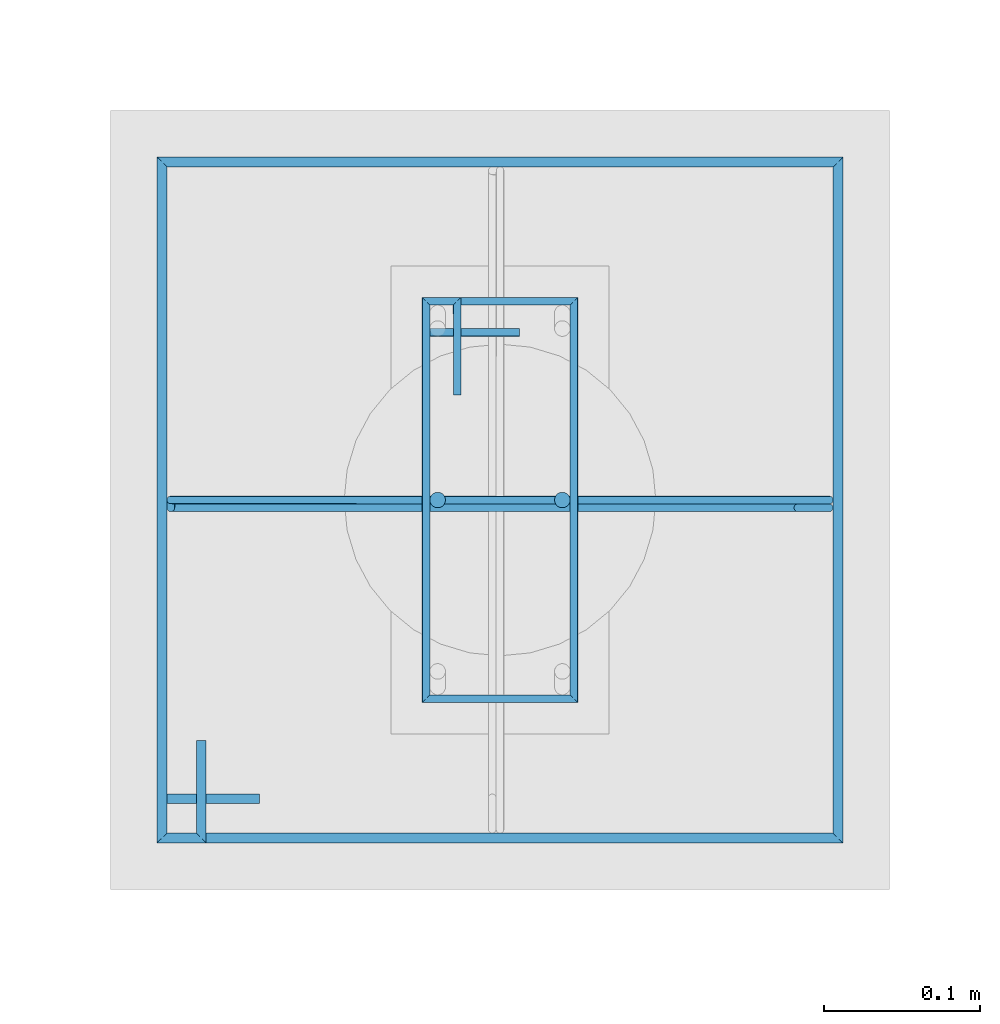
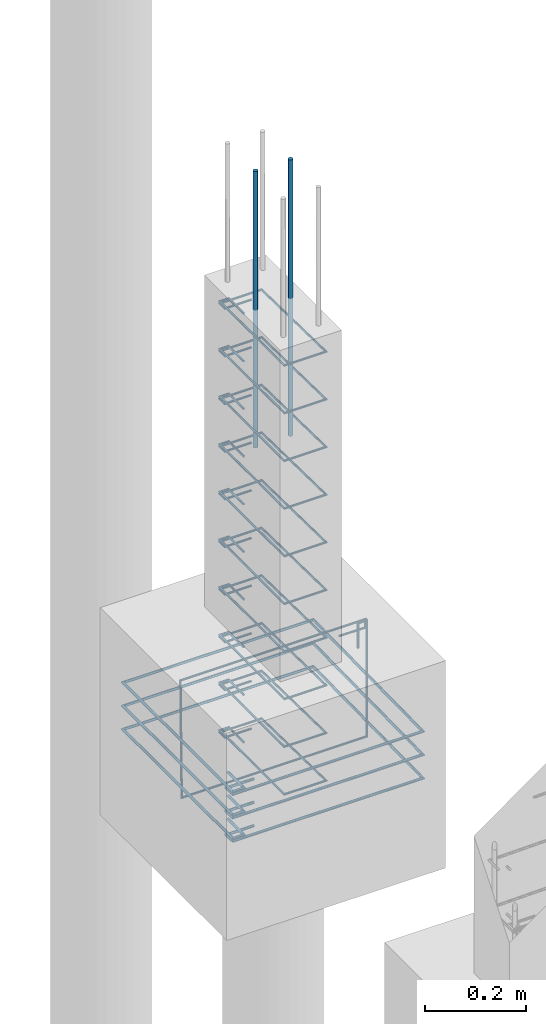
# One storey, part 76 of 119: 16 reinforcing bars.
"""IFC4 building model written with IfcOpenShell, lengths in centimetres."""

from ifc_helpers import new_model, entity, si_unit, derived_unit, frame, origin_with_axes, place, context, project, spatial, source, transform, mapped, element, save


model = new_model("IFC4")

# Units and contexts
model_context = context("Model", 3, precision=1e-05, world=origin_with_axes(), identifier="Body")
ifc_project = project(units=[si_unit("LENGTHUNIT", "METRE", prefix="CENTI"), si_unit("VOLUMEUNIT", "CUBIC_METRE"), si_unit("AREAUNIT", "SQUARE_METRE"), si_unit("POWERUNIT", "WATT"), si_unit("LUMINOUSFLUXUNIT", "LUMEN"), si_unit("ELECTRICCURRENTUNIT", "AMPERE"), si_unit("PRESSUREUNIT", "PASCAL", prefix="KILO"), si_unit("MASSUNIT", "GRAM", prefix="KILO"), si_unit("PLANEANGLEUNIT", "RADIAN"), derived_unit("VOLUMETRICFLOWRATEUNIT", [(si_unit("LENGTHUNIT", "METRE"), 3), (si_unit("TIMEUNIT", "SECOND"), -1)])], contexts=[model_context])

# Site, building, storey
site_placement = place(None, frame((-4000.0, 0.0, 0.0), z_axis=(0.0, 0.0, 1.0), x_axis=(1.0, 0.0, 0.0)))
site = spatial("IfcSite", under=ifc_project, at=site_placement, Name="PADRÃO")
building_placement = place(site_placement, frame((0.0, 0.0, -14.0)))
building = spatial("IfcBuilding", under=site, at=building_placement, Name="CRECHE PRÉ-ESCOLA TIPO 2")
storey_placement = place(building_placement, origin_with_axes())
storey = spatial("IfcBuildingStorey", under=building, at=storey_placement, Name="FUNDAÇÃO", CompositionType="ELEMENT", Elevation=-14.0)

# Reinforcing bars
shared_shape_1 = source(origin_with_axes(), model_context, "Body", "AdvancedSweptSolid", [
    entity("IfcSweptDiskSolid", entity("IfcCompositeCurve", [entity("IfcCompositeCurveSegment", "CONTINUOUS", True, entity("IfcPolyline", [entity("IfcCartesianPoint", [4.25, 21.75, 0.0]), entity("IfcCartesianPoint", [4.25, 27.75, 0.0])])), entity("IfcCompositeCurveSegment", "CONTINUOUS", True, entity("IfcPolyline", [entity("IfcCartesianPoint", [4.25, 27.75, 0.0]), entity("IfcCartesianPoint", [2.25, 27.75, 0.0])])), entity("IfcCompositeCurveSegment", "CONTINUOUS", True, entity("IfcPolyline", [entity("IfcCartesianPoint", [2.25, 27.75, 0.0]), entity("IfcCartesianPoint", [2.25, 2.25, 0.0])])), entity("IfcCompositeCurveSegment", "CONTINUOUS", True, entity("IfcPolyline", [entity("IfcCartesianPoint", [2.25, 2.25, 0.0]), entity("IfcCartesianPoint", [11.75, 2.25, 0.0])])), entity("IfcCompositeCurveSegment", "CONTINUOUS", True, entity("IfcPolyline", [entity("IfcCartesianPoint", [11.75, 2.25, 0.0]), entity("IfcCartesianPoint", [11.75, 27.75, -0.5])])), entity("IfcCompositeCurveSegment", "CONTINUOUS", True, entity("IfcPolyline", [entity("IfcCartesianPoint", [11.75, 27.75, -0.5]), entity("IfcCartesianPoint", [2.25, 27.75, -0.5])])), entity("IfcCompositeCurveSegment", "CONTINUOUS", True, entity("IfcPolyline", [entity("IfcCartesianPoint", [2.25, 27.75, -0.5]), entity("IfcCartesianPoint", [2.25, 25.75, -0.5])])), entity("IfcCompositeCurveSegment", "CONTINUOUS", True, entity("IfcPolyline", [entity("IfcCartesianPoint", [2.25, 25.75, -0.5]), entity("IfcCartesianPoint", [8.25, 25.75, -0.5])]))], False), 0.25),
])
for number, where, z_axis, x_axis, name in (
    (1, (1111.72, 1415.5, -74.75), (0.0, 0.0, 1.0), (1.0, 0.0, 0.0), "P102 - Estribo"),
    (2, (1111.72, 1415.5, -86.25), (0.0, 0.0, 1.0), (1.0, 0.0, 0.0), "P102 - Estribo"),
    (3, (1111.72, 1415.5, -5.75), (0.0, 0.0, 1.0), (1.0, 0.0, 0.0), "P102 - Estribo"),
    (4, (1111.72, 1415.5, -97.75), (0.0, 0.0, 1.0), (1.0, 0.0, 0.0), "P102 - Estribo"),
    (5, (1111.72, 1415.5, -28.75), (0.0, 0.0, 1.0), (1.0, 0.0, 0.0), "P102 - Estribo"),
    (6, (1111.72, 1415.5, -40.25), (0.0, 0.0, 1.0), (1.0, 0.0, 0.0), "P102 - Estribo"),
    (7, (1111.72, 1415.5, -51.75), (0.0, 0.0, 1.0), (1.0, 0.0, 0.0), "P102 - Estribo"),
    (8, (1111.72, 1415.5, -63.25), (0.0, 0.0, 1.0), (1.0, 0.0, 0.0), "P102 - Estribo"),
    (9, (1111.72, 1415.5, -17.25), (0.0, 0.0, 1.0), (1.0, 0.0, 0.0), "P102 - Estribo"),
    (10, (1111.72, 1415.5, -109.25), (0.0, 0.0, 1.0), (1.0, 0.0, 0.0), "P102 - Estribo"),
):
    element("IfcReinforcingBar", number, at=place(storey_placement, frame(where, z_axis=z_axis, x_axis=x_axis)), inside=storey, Name=name, BarLength=0.0, CrossSectionArea=1.9634954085e-05, NominalDiameter=0.5, PredefinedType="MAIN", context=model_context, shape_type="MappedRepresentation", body=[
        mapped(shared_shape_1, transform((0.0, 0.0, 0.0), scale=1.0)),
    ])
shared_shape_2 = source(origin_with_axes(), model_context, "Body", "AdvancedSweptSolid", [
    entity("IfcSweptDiskSolid", entity("IfcCompositeCurve", [entity("IfcCompositeCurveSegment", "CONTINUOUS", True, entity("IfcPolyline", [entity("IfcCartesianPoint", [1103.295, 1411.335, 0.0]), entity("IfcCartesianPoint", [1097.035, 1411.335, 0.0])])), entity("IfcCompositeCurveSegment", "CONTINUOUS", True, entity("IfcPolyline", [entity("IfcCartesianPoint", [1097.035, 1411.335, 0.0]), entity("IfcCartesianPoint", [1097.035, 1408.815, 0.0])])), entity("IfcCompositeCurveSegment", "CONTINUOUS", True, entity("IfcPolyline", [entity("IfcCartesianPoint", [1097.035, 1408.815, 0.0]), entity("IfcCartesianPoint", [1140.405, 1408.815, 0.0])])), entity("IfcCompositeCurveSegment", "CONTINUOUS", True, entity("IfcPolyline", [entity("IfcCartesianPoint", [1140.405, 1408.815, 0.0]), entity("IfcCartesianPoint", [1140.405, 1452.185, 0.63])])), entity("IfcCompositeCurveSegment", "CONTINUOUS", True, entity("IfcPolyline", [entity("IfcCartesianPoint", [1140.405, 1452.185, 0.63]), entity("IfcCartesianPoint", [1097.035, 1452.185, 0.63])])), entity("IfcCompositeCurveSegment", "CONTINUOUS", True, entity("IfcPolyline", [entity("IfcCartesianPoint", [1097.035, 1452.185, 0.63]), entity("IfcCartesianPoint", [1097.035, 1408.815, 0.63])])), entity("IfcCompositeCurveSegment", "CONTINUOUS", True, entity("IfcPolyline", [entity("IfcCartesianPoint", [1097.035, 1408.815, 0.63]), entity("IfcCartesianPoint", [1099.555, 1408.815, 0.63])])), entity("IfcCompositeCurveSegment", "CONTINUOUS", True, entity("IfcPolyline", [entity("IfcCartesianPoint", [1099.555, 1408.815, 0.63]), entity("IfcCartesianPoint", [1099.555, 1415.075, 0.63])]))], False), 0.315),
])
for number, where, z_axis, x_axis, name in (
    (11, (0.0, 0.0, -97.875), (0.0, 0.0, 1.0), (1.0, 0.0, 0.0), "P102 - Blocos (estribos)"),
    (12, (0.0, 0.0, -103.525), (0.0, 0.0, 1.0), (1.0, 0.0, 0.0), "P102 - Blocos (estribos)"),
    (13, (0.0, 0.0, -109.175), (0.0, 0.0, 1.0), (1.0, 0.0, 0.0), "P102 - Blocos (estribos)"),
):
    element("IfcReinforcingBar", number, at=place(storey_placement, frame(where, z_axis=z_axis, x_axis=x_axis)), inside=storey, Name=name, BarLength=0.0, CrossSectionArea=3.1172453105e-05, NominalDiameter=0.63, PredefinedType="MAIN", context=model_context, shape_type="MappedRepresentation", body=[
        mapped(shared_shape_2, transform((0.0, 0.0, 0.0), scale=1.0)),
    ])
shared_shape_3 = source(origin_with_axes(), model_context, "Body", "AdvancedSweptSolid", [
    entity("IfcSweptDiskSolid", entity("IfcCompositeCurve", [entity("IfcCompositeCurveSegment", "CONTINUOUS", True, entity("IfcPolyline", [entity("IfcCartesianPoint", [-15.12, -12.0, 0.0]), entity("IfcCartesianPoint", [-21.12, -12.0, 0.0])])), entity("IfcCompositeCurveSegment", "CONTINUOUS", True, entity("IfcPolyline", [entity("IfcCartesianPoint", [-21.12, -12.0, 0.0]), entity("IfcCartesianPoint", [-21.12, -14.0, 0.0])])), entity("IfcCompositeCurveSegment", "CONTINUOUS", True, entity("IfcPolyline", [entity("IfcCartesianPoint", [-21.12, -14.0, 0.0]), entity("IfcCartesianPoint", [21.12, -14.0, 0.0])])), entity("IfcCompositeCurveSegment", "CONTINUOUS", True, entity("IfcPolyline", [entity("IfcCartesianPoint", [21.12, -14.0, 0.0]), entity("IfcCartesianPoint", [21.12, 14.0, 0.5])])), entity("IfcCompositeCurveSegment", "CONTINUOUS", True, entity("IfcPolyline", [entity("IfcCartesianPoint", [21.12, 14.0, 0.5]), entity("IfcCartesianPoint", [-21.12, 14.0, 0.5])])), entity("IfcCompositeCurveSegment", "CONTINUOUS", True, entity("IfcPolyline", [entity("IfcCartesianPoint", [-21.12, 14.0, 0.5]), entity("IfcCartesianPoint", [-21.12, -14.0, 0.5])])), entity("IfcCompositeCurveSegment", "CONTINUOUS", True, entity("IfcPolyline", [entity("IfcCartesianPoint", [-21.12, -14.0, 0.5]), entity("IfcCartesianPoint", [-19.12, -14.0, 0.5])])), entity("IfcCompositeCurveSegment", "CONTINUOUS", True, entity("IfcPolyline", [entity("IfcCartesianPoint", [-19.12, -14.0, 0.5]), entity("IfcCartesianPoint", [-19.12, -8.0, 0.5])]))], False), 0.25),
])
reinforcing_bar_placement = place(storey_placement, frame((1118.72, 1430.5, -97.75), z_axis=(0.0, -1.0, 0.0), x_axis=(-1.0, 0.0, 0.0)))
element("IfcReinforcingBar", 14, at=reinforcing_bar_placement, inside=storey, Name="P102 - Blocos (estribos)", BarLength=0.0, CrossSectionArea=1.9634954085e-05, NominalDiameter=0.5, PredefinedType="MAIN", context=model_context, shape_type="MappedRepresentation", body=[
    mapped(shared_shape_3, transform((0.0, 0.0, 0.0), scale=1.0)),
])
for number, where, z_axis, x_axis, name in (
    (15, (1122.72, 1430.5, 33.3573001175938), (0.0, 0.0, 1.0), (1.0, 0.0, 0.0), "P102 - Longitudinal"),
    (16, (1114.72, 1430.5, 33.3573001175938), (0.0, 0.0, 1.0), (1.0, 0.0, 0.0), "P102 - Longitudinal"),
):
    element("IfcReinforcingBar", number, at=place(storey_placement, frame(where, z_axis=z_axis, x_axis=x_axis)), inside=storey, Name=name, BarLength=0.0, CrossSectionArea=7.853981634e-05, NominalDiameter=1.0, PredefinedType="MAIN", context=model_context, shape_type="AdvancedSweptSolid", body=[
        entity("IfcSweptDiskSolid", entity("IfcCompositeCurve", [entity("IfcCompositeCurveSegment", "CONTINUOUS", True, entity("IfcPolyline", [entity("IfcCartesianPoint", [0.0, 0.0, -66.7146002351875]), entity("IfcCartesianPoint", [0.0, 0.0, 0.0])]))], False), 0.5),
    ])

save(model, "model.ifc")
